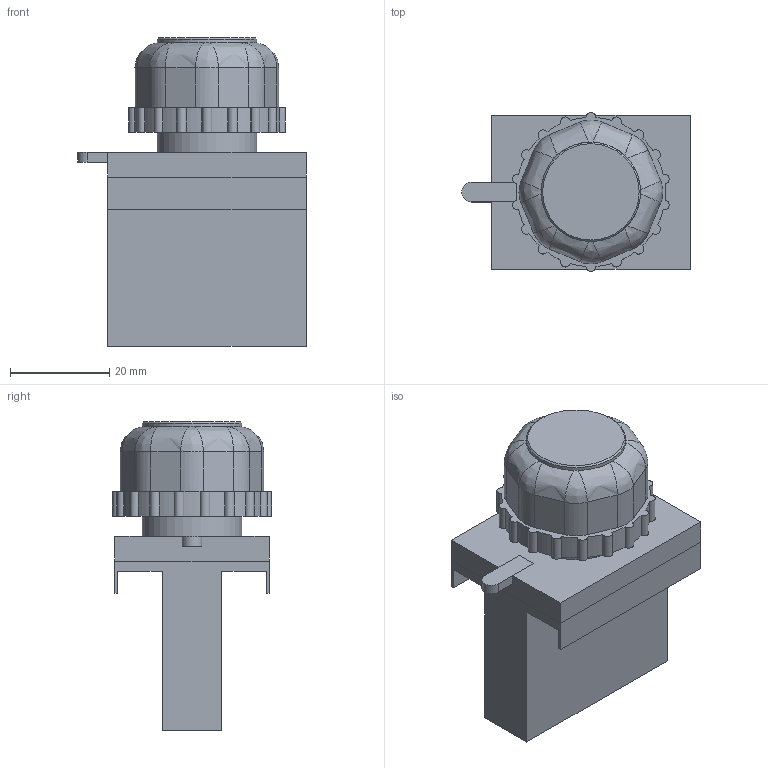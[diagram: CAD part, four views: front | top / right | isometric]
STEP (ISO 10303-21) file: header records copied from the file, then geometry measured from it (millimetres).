
FILE_DESCRIPTION(/* description */ (''),/* implementation_level */ '2;1');
FILE_NAME(/* name */ 'D:\CHINT3\NP8-D.stp',/* time_stamp */ '2017-12-10T20:53:43+03:00',/* author */ ('RSagdiev'),/* organization */ (''),/* preprocessor_version */ 'ST-DEVELOPER v16.5',/* originating_system */ 'Autodesk Inventor 2017',/* authorisation */ '');
FILE_SCHEMA (('AUTOMOTIVE_DESIGN { 1 0 10303 214 3 1 1 }'));
Length unit declared in the file: millimetre
Products named in the file (1): NP8-D
Bounding box: 46 x 32 x 62 mm (x, y, z)
Volume: 37248.6 mm3; surface area: 17025.7 mm2
Topology: 7 solids, 7 shells, 145 faces, 379 edges, 247 vertices
Faces by surface type: plane 80, cylinder 48, bspline 16, cone 1
Full cylindrical faces by diameter (mm): 20 x3
Entity records: 4860 total; most frequent: CARTESIAN_POINT 1214, ORIENTED_EDGE 748, DIRECTION 738, EDGE_CURVE 374, AXIS2_PLACEMENT_3D 250, VERTEX_POINT 246, LINE 238, VECTOR 238
